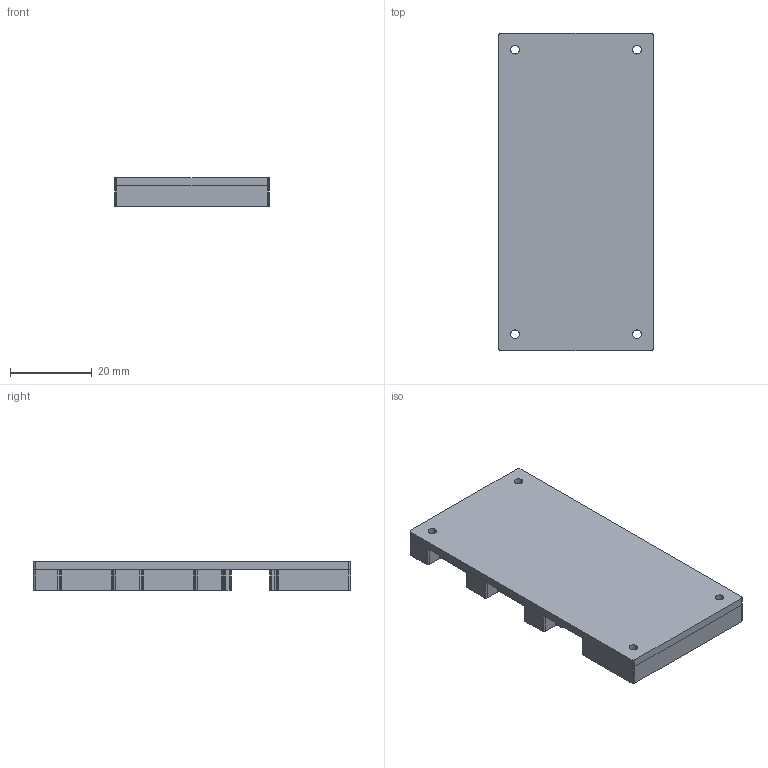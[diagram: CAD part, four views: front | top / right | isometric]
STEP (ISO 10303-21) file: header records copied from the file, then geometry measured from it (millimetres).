
FILE_DESCRIPTION(('STEP AP214'),'1');
FILE_NAME('acrylic_cover.stp','2023-02-01T12:20:31',('tanaka'),(' '),'Spatial InterOp 3D','CST ACIS InterOp Converter 2021',' ');
FILE_SCHEMA(('AUTOMOTIVE_DESIGN { 1 0 10303 214 1 1 1 1 }'));
Length unit declared in the file: millimetre
Products named in the file (1): 1
Bounding box: 37.8 x 77.5 x 7 mm (x, y, z)
Volume: 14716.5 mm3; surface area: 12526.1 mm2
Topology: 3 solids, 3 shells, 209 faces, 619 edges, 416 vertices
Faces by surface type: cylinder 144, plane 65
Entity records: 7257 total; most frequent: DIRECTION 1341, CARTESIAN_POINT 1247, ORIENTED_EDGE 1238, EDGE_CURVE 619, AXIS2_PLACEMENT_3D 510, VERTEX_POINT 416, LINE 321, VECTOR 321
